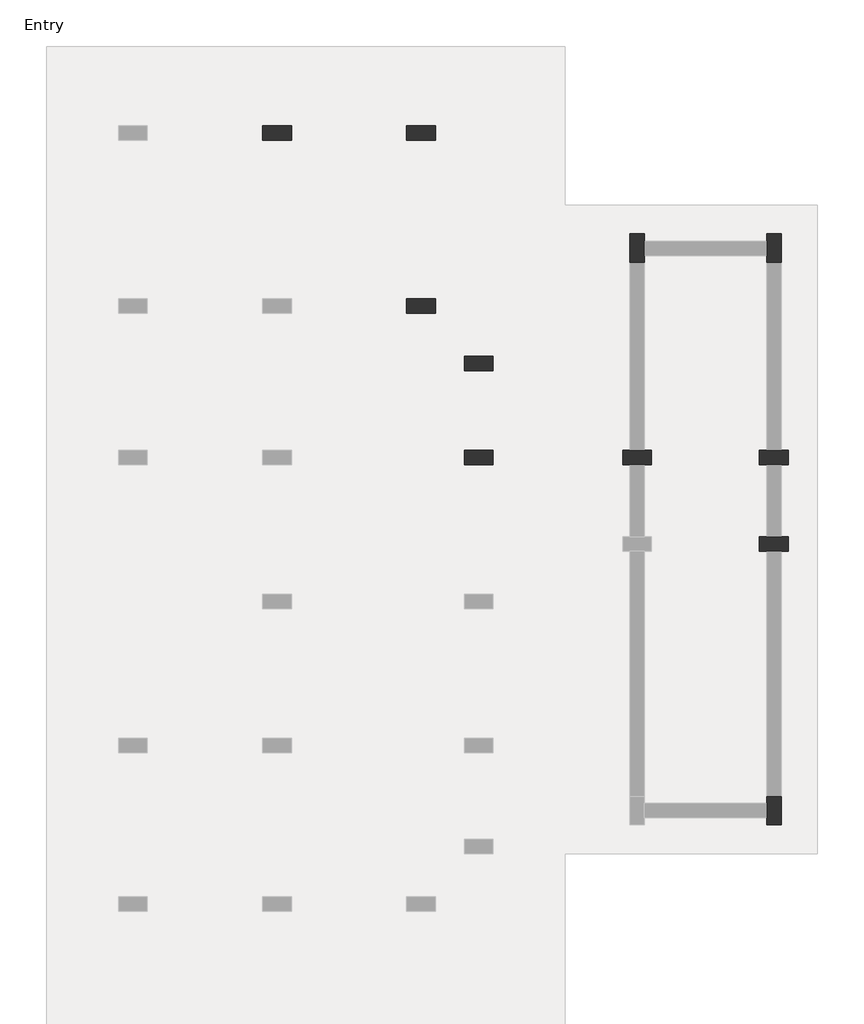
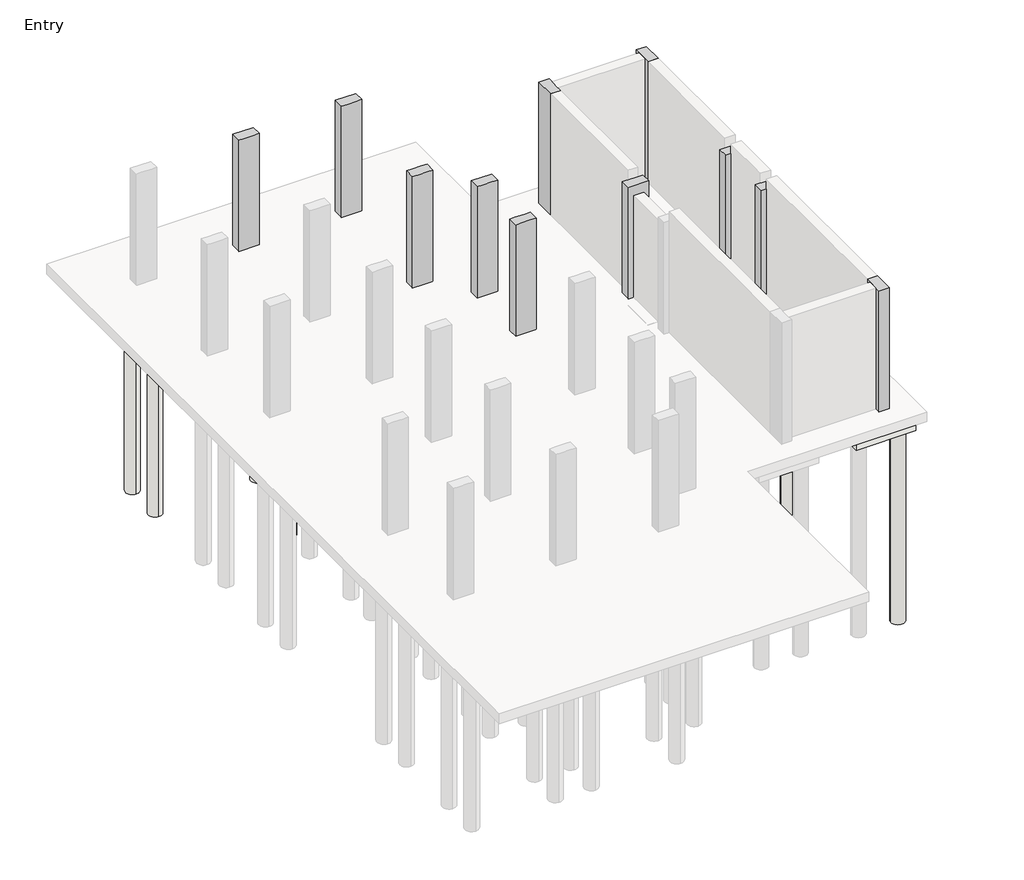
# One storey, part 3 of 3: 35 slabs, 11 columns.
"""IFC4 building model written with IfcOpenShell, lengths in millimetres."""

from ifc_helpers import new_model, si_unit, point, frame, frame_2d, origin, place, context, project, spatial, polyline, circle_curve, trimmed, segment, composite_curve, outline, extrude, faceted_brep, element, save

model = new_model("IFC4")

# Units and contexts
model_context = context("Model", 3, world=origin())
ifc_project = project(units=[si_unit("LENGTHUNIT", "METRE", prefix="MILLI")], contexts=[model_context])

# Site, building, storey
site = spatial("IfcSite", under=ifc_project)
building = spatial("IfcBuilding", under=site)
storey = spatial("IfcBuildingStorey", under=building, Name="Entry", Elevation=0.0)

# Columns
placement = place(None, origin())
element("IfcColumn", 1, ObjectType="Concrete-Rectangular-Column : 12 x 24", at=placement, inside=storey, context=model_context, shape_type="Brep", body=[
    faceted_brep([(-10423.1073204, 23769.0572372, 0.0), (-9813.5073204, 23769.0572372, 0.0), (-9813.5073204, 23464.2572372, 0.0), (-10423.1073204, 23464.2572372, 0.0), (-10423.1073204, 23769.0572372, 3505.2), (-9813.5073204, 23769.0572372, 3505.2), (-9813.5073204, 23769.0572372, 2895.6), (-10423.1073204, 23769.0572372, 2895.6), (-9813.5073204, 23464.2572372, 3505.2), (-9813.5073204, 23464.2572372, 2895.6), (-9965.9073204, 23464.2572372, 3505.2), (-10270.7073204, 23464.2572372, 3505.2), (-10423.1073204, 23464.2572372, 3505.2), (-10423.1073204, 23464.2572372, 2895.6)], [[[0, 1, 2, 3]], [[4, 5, 6, 1, 0, 7]], [[5, 8, 9, 2, 1, 6]], [[8, 10, 11, 12, 13, 3, 2, 9]], [[12, 4, 7, 0, 3, 13]], [[4, 12, 11, 10, 8, 5]]]),
])
element("IfcColumn", 2, ObjectType="Concrete-Rectangular-Column : 12 x 24", at=placement, inside=storey, context=model_context, shape_type="Brep", body=[
    faceted_brep([(-7375.1073204, 23769.0572372, 0.0), (-6765.5073204, 23769.0572372, 0.0), (-6765.5073204, 23464.2572372, 0.0), (-7375.1073204, 23464.2572372, 0.0), (-7375.1073204, 23769.0572372, 3505.2), (-6765.5073204, 23769.0572372, 3505.2), (-7375.1073204, 23769.0572372, 2895.6), (-6765.5073204, 23464.2572372, 3505.2), (-6917.9073204, 23464.2572372, 3505.2), (-7222.7073204, 23464.2572372, 3505.2), (-7375.1073204, 23464.2572372, 3505.2), (-7375.1073204, 23464.2572372, 2895.6)], [[[0, 1, 2, 3]], [[4, 5, 1, 0, 6]], [[5, 7, 2, 1]], [[7, 8, 9, 10, 11, 3, 2]], [[10, 4, 6, 0, 3, 11]], [[4, 10, 9, 8, 7, 5]]]),
])
element("IfcColumn", 3, ObjectType="Concrete-Rectangular-Column : 12 x 24", at=placement, inside=storey, context=model_context, shape_type="Brep", body=[
    faceted_brep([(-7375.1073204, 20111.4572372, 0.0), (-6765.5073204, 20111.4572372, 0.0), (-6765.5073204, 19806.6572372, 0.0), (-7375.1073204, 19806.6572372, 0.0), (-7375.1073204, 20111.4572372, 3505.2), (-7222.7073204, 20111.4572372, 3505.2), (-6917.9073204, 20111.4572372, 3505.2), (-6765.5073204, 20111.4572372, 3505.2), (-7375.1073204, 20111.4572372, 2895.6), (-6765.5073204, 19806.6572372, 3505.2), (-6917.9073204, 19806.6572372, 3505.2), (-7222.7073204, 19806.6572372, 3505.2), (-7375.1073204, 19806.6572372, 3505.2), (-7375.1073204, 19806.6572372, 2895.6)], [[[0, 1, 2, 3]], [[4, 5, 6, 7, 1, 0, 8]], [[7, 9, 2, 1]], [[9, 10, 11, 12, 13, 3, 2]], [[12, 4, 8, 0, 3, 13]], [[4, 12, 11, 10, 9, 7, 6, 5]]]),
])
element("IfcColumn", 4, ObjectType="Concrete-Rectangular-Column : 12 x 24", at=placement, inside=storey, context=model_context, shape_type="Brep", body=[
    faceted_brep([(-6156.6500241, 18892.9999409, 0.0), (-5547.0500241, 18892.9999409, 0.0), (-5547.0500241, 18588.1999409, 0.0), (-6156.6500241, 18588.1999409, 0.0), (-6156.6500241, 18892.9999409, 3505.2), (-5547.0500241, 18892.9999409, 3505.2), (-6156.6500241, 18892.9999409, 2895.6), (-5547.0500241, 18588.1999409, 3505.2), (-5699.4500241, 18588.1999409, 3505.2), (-6004.2500241, 18588.1999409, 3505.2), (-6156.6500241, 18588.1999409, 3505.2), (-6156.6500241, 18588.1999409, 2895.6)], [[[0, 1, 2, 3]], [[4, 5, 1, 0, 6]], [[5, 7, 2, 1]], [[7, 8, 9, 10, 11, 3, 2]], [[10, 4, 6, 0, 3, 11]], [[4, 10, 9, 8, 7, 5]]]),
])
element("IfcColumn", 5, ObjectType="Concrete-Rectangular-Column : 12 x 24", at=placement, inside=storey, context=model_context, shape_type="Brep", body=[
    faceted_brep([(-6156.6500241, 16911.0572372, 0.0), (-5547.0500241, 16911.0572372, 0.0), (-5547.0500241, 16606.2572372, 0.0), (-6156.6500241, 16606.2572372, 0.0), (-6156.6500241, 16911.0572372, 3505.2), (-6004.2500241, 16911.0572372, 3505.2), (-5699.4500241, 16911.0572372, 3505.2), (-5547.0500241, 16911.0572372, 3505.2), (-5547.0500241, 16911.0572372, 2895.6), (-6156.6500241, 16911.0572372, 2895.6), (-5547.0500241, 16606.2572372, 3505.2), (-5547.0500241, 16606.2572372, 2895.6), (-5699.4500241, 16606.2572372, 3505.2), (-6004.2500241, 16606.2572372, 3505.2), (-6156.6500241, 16606.2572372, 3505.2), (-6156.6500241, 16606.2572372, 2895.6)], [[[0, 1, 2, 3]], [[4, 5, 6, 7, 8, 1, 0, 9]], [[7, 10, 11, 2, 1, 8]], [[10, 12, 13, 14, 15, 3, 2, 11]], [[14, 4, 9, 0, 3, 15]], [[4, 14, 13, 12, 10, 7, 6, 5]]]),
])
element("IfcColumn", 6, ObjectType="Concrete-Rectangular-Column : 12 x 24", at=placement, inside=storey, context=model_context, shape_type="Brep", body=[
    faceted_brep([(-2803.8500241, 16911.0572372, 0.0), (-2651.4500241, 16911.0572372, 0.0), (-2346.6500241, 16911.0572372, 0.0), (-2194.2500241, 16911.0572372, 0.0), (-2194.2500241, 16606.2572372, 0.0), (-2346.6500241, 16606.2572372, 0.0), (-2651.4500241, 16606.2572372, 0.0), (-2803.8500241, 16606.2572372, 0.0), (-2803.8500241, 16911.0572372, 3505.2), (-2194.2500241, 16911.0572372, 3505.2), (-2194.2500241, 16606.2572372, 3505.2), (-2803.8500241, 16606.2572372, 3505.2)], [[[0, 1, 2, 3, 4, 5, 6, 7]], [[3, 2, 1, 0, 8, 9]], [[4, 3, 9, 10]], [[7, 6, 5, 4, 10, 11]], [[0, 7, 11, 8]], [[9, 8, 11, 10]]]),
])
element("IfcColumn", 7, ObjectType="Concrete-Rectangular-Column : 12 x 24", at=placement, inside=storey, context=model_context, shape_type="Brep", body=[
    faceted_brep([(89.9860546, 16911.0572372, 0.0), (242.3860546, 16911.0572372, 0.0), (547.1860546, 16911.0572372, 0.0), (699.5860546, 16911.0572372, 0.0), (699.5860546, 16606.2572372, 0.0), (547.1860546, 16606.2572372, 0.0), (242.3860546, 16606.2572372, 0.0), (89.9860546, 16606.2572372, 0.0), (89.9860546, 16911.0572372, 3505.2), (699.5860546, 16911.0572372, 3505.2), (699.5860546, 16606.2572372, 3505.2), (89.9860546, 16606.2572372, 3505.2)], [[[0, 1, 2, 3, 4, 5, 6, 7]], [[3, 2, 1, 0, 8, 9]], [[4, 3, 9, 10]], [[7, 6, 5, 4, 10, 11]], [[0, 7, 11, 8]], [[9, 8, 11, 10]]]),
])
element("IfcColumn", 8, ObjectType="Concrete-Rectangular-Column : 12 x 24", at=placement, inside=storey, context=model_context, shape_type="Brep", body=[
    faceted_brep([(89.9860546, 15082.2572372, 0.0), (242.3860546, 15082.2572372, 0.0), (547.1860546, 15082.2572372, 0.0), (699.5860546, 15082.2572372, 0.0), (699.5860546, 14777.4572372, 0.0), (547.1860546, 14777.4572372, 0.0), (242.3860546, 14777.4572372, 0.0), (89.9860546, 14777.4572372, 0.0), (89.9860546, 15082.2572372, 3505.2), (699.5860546, 15082.2572372, 3505.2), (699.5860546, 14777.4572372, 3505.2), (89.9860546, 14777.4572372, 3505.2)], [[[0, 1, 2, 3, 4, 5, 6, 7]], [[3, 2, 1, 0, 8, 9]], [[4, 3, 9, 10]], [[7, 6, 5, 4, 10, 11]], [[0, 7, 11, 8]], [[9, 8, 11, 10]]]),
])
element("IfcColumn", 9, ObjectType="Concrete-Rectangular-Column : 12 x 24", at=placement, inside=storey, context=model_context, shape_type="Brep", body=[
    faceted_brep([(-2346.6500241, 21483.0572372, 0.0), (-2346.6500241, 21330.6572372, 0.0), (-2346.6500241, 21025.8572372, 0.0), (-2346.6500241, 20873.4572372, 0.0), (-2651.4500241, 20873.4572372, 0.0), (-2651.4500241, 21483.0572372, 0.0), (-2346.6500241, 21483.0572372, 3810.0), (-2346.6500241, 21330.6572372, 3810.0), (-2346.6500241, 21025.8572372, 3810.0), (-2346.6500241, 20873.4572372, 3810.0), (-2651.4500241, 20873.4572372, 3810.0), (-2651.4500241, 21483.0572372, 3810.0)], [[[0, 1, 2, 3, 4, 5]], [[6, 7, 8, 9, 3, 2, 1, 0]], [[9, 10, 4, 3]], [[10, 11, 5, 4]], [[11, 6, 0, 5]], [[6, 11, 10, 9, 8, 7]]]),
])
element("IfcColumn", 10, ObjectType="Concrete-Rectangular-Column : 12 x 24", at=placement, inside=storey, context=model_context, shape_type="Brep", body=[
    faceted_brep([(547.1860546, 21483.0572372, 0.0), (547.1860546, 20873.4572372, 0.0), (242.3860546, 20873.4572372, 0.0), (242.3860546, 21025.8572372, 0.0), (242.3860546, 21330.6572372, 0.0), (242.3860546, 21483.0572372, 0.0), (547.1860546, 21483.0572372, 3810.0), (547.1860546, 20873.4572372, 3810.0), (242.3860546, 20873.4572372, 3810.0), (242.3860546, 21025.8572372, 3810.0), (242.3860546, 21330.6572372, 3810.0), (242.3860546, 21483.0572372, 3810.0)], [[[0, 1, 2, 3, 4, 5]], [[6, 7, 1, 0]], [[7, 8, 2, 1]], [[8, 9, 10, 11, 5, 4, 3, 2]], [[11, 6, 0, 5]], [[6, 11, 10, 9, 8, 7]]]),
])
element("IfcColumn", 11, ObjectType="Concrete-Rectangular-Column : 12 x 24", at=placement, inside=storey, context=model_context, shape_type="Brep", body=[
    faceted_brep([(547.1860546, 9595.8572372, 0.0), (547.1860546, 8986.2572372, 0.0), (242.3860546, 8986.2572372, 0.0), (242.3860546, 9138.6572372, 0.0), (242.3860546, 9443.4572372, 0.0), (242.3860546, 9595.8572372, 0.0), (547.1860546, 9595.8572372, 3810.0), (547.1860546, 8986.2572372, 3810.0), (242.3860546, 8986.2572372, 3810.0), (242.3860546, 9138.6572372, 3810.0), (242.3860546, 9443.4572372, 3810.0), (242.3860546, 9595.8572372, 3810.0)], [[[0, 1, 2, 3, 4, 5]], [[6, 7, 1, 0]], [[7, 8, 2, 1]], [[8, 9, 10, 11, 5, 4, 3, 2]], [[11, 6, 0, 5]], [[6, 11, 10, 9, 8, 7]]]),
])

# Slabs
element("IfcSlab", 12, ObjectType="Pile Cap-2 Pile : 31\"x61\"x35\"", at=placement, inside=storey, context=model_context, shape_type="SweptSolid", body=[
    extrude(outline(polyline([(-7476.7073204, 20848.0572372), (-6663.9073204, 20848.0572372), (-6663.9073204, 19070.0572372), (-7476.7073204, 19070.0572372), (-7476.7073204, 20848.0572372)])), frame((0.0, 0.0, -889.0), z_axis=(0.0, 0.0, 1.0), x_axis=(1.0, 0.0, 0.0)), (0.0, 0.0, 1.0), 584.2),
])
element("IfcSlab", 13, ObjectType="Pile Cap-2 Pile : 31\"x61\"x35\"", at=placement, inside=storey, context=model_context, shape_type="SweptSolid", body=[
    extrude(outline(polyline([(-10524.7073204, 24505.6572372), (-9711.9073204, 24505.6572372), (-9711.9073204, 22727.6572372), (-10524.7073204, 22727.6572372), (-10524.7073204, 24505.6572372)])), frame((0.0, 0.0, -889.0), z_axis=(0.0, 0.0, 1.0), x_axis=(1.0, 0.0, 0.0)), (0.0, 0.0, 1.0), 584.2),
])
element("IfcSlab", 14, ObjectType="Pile Cap-2 Pile : 31\"x61\"x35\"", at=placement, inside=storey, context=model_context, shape_type="SweptSolid", body=[
    extrude(outline(polyline([(-7476.7073204, 24505.6572372), (-6663.9073204, 24505.6572372), (-6663.9073204, 22727.6572372), (-7476.7073204, 22727.6572372), (-7476.7073204, 24505.6572372)])), frame((0.0, 0.0, -889.0), z_axis=(0.0, 0.0, 1.0), x_axis=(1.0, 0.0, 0.0)), (0.0, 0.0, 1.0), 584.2),
])
element("IfcSlab", 15, ObjectType="Pile Cap-2 Pile : 31\"x61\"x35\"", at=placement, inside=storey, context=model_context, shape_type="SweptSolid", body=[
    extrude(outline(polyline([(-6258.2500241, 17647.6572372), (-5445.4500241, 17647.6572372), (-5445.4500241, 15869.6572372), (-6258.2500241, 15869.6572372), (-6258.2500241, 17647.6572372)])), frame((0.0, 0.0, -889.0), z_axis=(0.0, 0.0, 1.0), x_axis=(1.0, 0.0, 0.0)), (0.0, 0.0, 1.0), 584.2),
])
element("IfcSlab", 16, ObjectType="Pile Cap-2 Pile : 31\"x61\"x35\"", at=placement, inside=storey, context=model_context, shape_type="SweptSolid", body=[
    extrude(outline(polyline([(-1610.0500241, 21584.6572372), (-1610.0500241, 20771.8572372), (-3388.0500241, 20771.8572372), (-3388.0500241, 21584.6572372), (-1610.0500241, 21584.6572372)])), frame((0.0, 0.0, -889.0), z_axis=(0.0, 0.0, 1.0), x_axis=(1.0, 0.0, 0.0)), (0.0, 0.0, 1.0), 584.2),
])
element("IfcSlab", 17, ObjectType="Pile Cap-2 Pile : 31\"x61\"x35\"", at=placement, inside=storey, context=model_context, shape_type="SweptSolid", body=[
    extrude(outline(polyline([(1283.7860546, 21584.6572372), (1283.7860546, 20771.8572372), (-494.2139454, 20771.8572372), (-494.2139454, 21584.6572372), (1283.7860546, 21584.6572372)])), frame((0.0, 0.0, -889.0), z_axis=(0.0, 0.0, 1.0), x_axis=(1.0, 0.0, 0.0)), (0.0, 0.0, 1.0), 584.2),
])
element("IfcSlab", 18, ObjectType="Pile Cap-2 Pile : 31\"x61\"x35\"", at=placement, inside=storey, context=model_context, shape_type="SweptSolid", body=[
    extrude(outline(polyline([(-494.2139454, 16352.2572372), (-494.2139454, 17165.0572372), (1283.7860546, 17165.0572372), (1283.7860546, 16352.2572372), (-494.2139454, 16352.2572372)])), frame((0.0, 0.0, -889.0), z_axis=(0.0, 0.0, 1.0), x_axis=(1.0, 0.0, 0.0)), (0.0, 0.0, 1.0), 584.2),
])
element("IfcSlab", 19, ObjectType="Pile Cap-2 Pile : 31\"x61\"x35\"", at=placement, inside=storey, context=model_context, shape_type="SweptSolid", body=[
    extrude(outline(polyline([(-494.2139454, 14523.4572372), (-494.2139454, 15336.2572372), (1283.7860546, 15336.2572372), (1283.7860546, 14523.4572372), (-494.2139454, 14523.4572372)])), frame((0.0, 0.0, -889.0), z_axis=(0.0, 0.0, 1.0), x_axis=(1.0, 0.0, 0.0)), (0.0, 0.0, 1.0), 584.2),
])
element("IfcSlab", 20, ObjectType="Pile Cap-2 Pile : 31\"x61\"x35\"", at=placement, inside=storey, context=model_context, shape_type="SweptSolid", body=[
    extrude(outline(polyline([(-3388.0500241, 16352.2572372), (-3388.0500241, 17165.0572372), (-1610.0500241, 17165.0572372), (-1610.0500241, 16352.2572372), (-3388.0500241, 16352.2572372)])), frame((0.0, 0.0, -889.0), z_axis=(0.0, 0.0, 1.0), x_axis=(1.0, 0.0, 0.0)), (0.0, 0.0, 1.0), 584.2),
])
element("IfcSlab", 21, ObjectType="Pile Cap-2 Pile : 31\"x61\"x35\"", at=placement, inside=storey, context=model_context, shape_type="SweptSolid", body=[
    extrude(outline(polyline([(1283.7860546, 9697.4572372), (1283.7860546, 8884.6572372), (-494.2139454, 8884.6572372), (-494.2139454, 9697.4572372), (1283.7860546, 9697.4572372)])), frame((0.0, 0.0, -889.0), z_axis=(0.0, 0.0, 1.0), x_axis=(1.0, 0.0, 0.0)), (0.0, 0.0, 1.0), 584.2),
])
element("IfcSlab", 22, ObjectType="Pile Cap-2 Pile : 31\"x61\"x35\"", at=placement, inside=storey, context=model_context, shape_type="SweptSolid", body=[
    extrude(outline(polyline([(-5445.4500241, 17850.8572372), (-6258.2500241, 17850.8572372), (-6258.2500241, 19628.8572372), (-5445.4500241, 19628.8572372), (-5445.4500241, 17850.8572372)])), frame((0.0, 0.0, -889.0), z_axis=(0.0, 0.0, 1.0), x_axis=(1.0, 0.0, 0.0)), (0.0, 0.0, 1.0), 584.2),
])
element("IfcSlab", 23, ObjectType="Pile-Steel Pipe : 16\" Diameter", at=placement, inside=storey, context=model_context, shape_type="SweptSolid", body=[
    extrude(outline(composite_curve([segment(trimmed(circle_curve(frame_2d((-9584.9073204, 20492.4572372)), 203.2), [point((-9584.9073204, 20289.2572372))], [point((-9584.9073204, 20695.6572372))], False, "CARTESIAN"), True, "CONTINUOUS"), segment(trimmed(circle_curve(frame_2d((-9584.9073204, 20492.4572372)), 203.2), [point((-9584.9073204, 20695.6572372))], [point((-9584.9073204, 20289.2572372))], False, "CARTESIAN"), True, "CONTINUOUS")], self_intersect=False)), frame((0.0, 0.0, -6985.0), z_axis=(0.0, 0.0, 1.0), x_axis=(1.0, 0.0, 0.0)), (0.0, 0.0, 1.0), 6096.0),
])
element("IfcSlab", 24, ObjectType="Pile-Steel Pipe : 16\" Diameter", at=placement, inside=storey, context=model_context, shape_type="SweptSolid", body=[
    extrude(outline(composite_curve([segment(trimmed(circle_curve(frame_2d((-10651.7073204, 20492.4572372)), 203.2), [point((-10651.7073204, 20289.2572372))], [point((-10651.7073204, 20695.6572372))], False, "CARTESIAN"), True, "CONTINUOUS"), segment(trimmed(circle_curve(frame_2d((-10651.7073204, 20492.4572372)), 203.2), [point((-10651.7073204, 20695.6572372))], [point((-10651.7073204, 20289.2572372))], False, "CARTESIAN"), True, "CONTINUOUS")], self_intersect=False)), frame((0.0, 0.0, -6985.0), z_axis=(0.0, 0.0, 1.0), x_axis=(1.0, 0.0, 0.0)), (0.0, 0.0, 1.0), 6096.0),
])
element("IfcSlab", 25, ObjectType="Pile-Steel Pipe : 16\" Diameter", at=placement, inside=storey, context=model_context, shape_type="SweptSolid", body=[
    extrude(outline(composite_curve([segment(trimmed(circle_curve(frame_2d((-13166.3073204, 23032.4572372)), 203.2), [point((-13166.3073204, 22829.2572372))], [point((-13166.3073204, 23235.6572372))], False, "CARTESIAN"), True, "CONTINUOUS"), segment(trimmed(circle_curve(frame_2d((-13166.3073204, 23032.4572372)), 203.2), [point((-13166.3073204, 23235.6572372))], [point((-13166.3073204, 22829.2572372))], False, "CARTESIAN"), True, "CONTINUOUS")], self_intersect=False)), frame((0.0, 0.0, -6985.0), z_axis=(0.0, 0.0, 1.0), x_axis=(1.0, 0.0, 0.0)), (0.0, 0.0, 1.0), 6096.0),
])
element("IfcSlab", 26, ObjectType="Pile-Steel Pipe : 16\" Diameter", at=placement, inside=storey, context=model_context, shape_type="SweptSolid", body=[
    extrude(outline(composite_curve([segment(trimmed(circle_curve(frame_2d((-13166.3073204, 24200.8572372)), 203.2), [point((-13166.3073204, 23997.6572372))], [point((-13166.3073204, 24404.0572372))], False, "CARTESIAN"), True, "CONTINUOUS"), segment(trimmed(circle_curve(frame_2d((-13166.3073204, 24200.8572372)), 203.2), [point((-13166.3073204, 24404.0572372))], [point((-13166.3073204, 23997.6572372))], False, "CARTESIAN"), True, "CONTINUOUS")], self_intersect=False)), frame((0.0, 0.0, -6985.0), z_axis=(0.0, 0.0, 1.0), x_axis=(1.0, 0.0, 0.0)), (0.0, 0.0, 1.0), 6096.0),
])
element("IfcSlab", 27, ObjectType="Pile-Steel Pipe : 16\" Diameter", at=placement, inside=storey, context=model_context, shape_type="SweptSolid", body=[
    extrude(outline(composite_curve([segment(trimmed(circle_curve(frame_2d((-7070.3073204, 19374.8572372)), 203.2), [point((-7070.3073204, 19171.6572372))], [point((-7070.3073204, 19578.0572372))], False, "CARTESIAN"), True, "CONTINUOUS"), segment(trimmed(circle_curve(frame_2d((-7070.3073204, 19374.8572372)), 203.2), [point((-7070.3073204, 19578.0572372))], [point((-7070.3073204, 19171.6572372))], False, "CARTESIAN"), True, "CONTINUOUS")], self_intersect=False)), frame((0.0, 0.0, -6985.0), z_axis=(0.0, 0.0, 1.0), x_axis=(1.0, 0.0, 0.0)), (0.0, 0.0, 1.0), 6096.0),
])
element("IfcSlab", 28, ObjectType="Pile-Steel Pipe : 16\" Diameter", at=placement, inside=storey, context=model_context, shape_type="SweptSolid", body=[
    extrude(outline(composite_curve([segment(trimmed(circle_curve(frame_2d((-7070.3073204, 20543.2572372)), 203.2), [point((-7070.3073204, 20340.0572372))], [point((-7070.3073204, 20746.4572372))], False, "CARTESIAN"), True, "CONTINUOUS"), segment(trimmed(circle_curve(frame_2d((-7070.3073204, 20543.2572372)), 203.2), [point((-7070.3073204, 20746.4572372))], [point((-7070.3073204, 20340.0572372))], False, "CARTESIAN"), True, "CONTINUOUS")], self_intersect=False)), frame((0.0, 0.0, -6985.0), z_axis=(0.0, 0.0, 1.0), x_axis=(1.0, 0.0, 0.0)), (0.0, 0.0, 1.0), 6096.0),
])
element("IfcSlab", 29, ObjectType="Pile-Steel Pipe : 16\" Diameter", at=placement, inside=storey, context=model_context, shape_type="SweptSolid", body=[
    extrude(outline(composite_curve([segment(trimmed(circle_curve(frame_2d((-10118.3073204, 23032.4572372)), 203.2), [point((-10118.3073204, 22829.2572372))], [point((-10118.3073204, 23235.6572372))], False, "CARTESIAN"), True, "CONTINUOUS"), segment(trimmed(circle_curve(frame_2d((-10118.3073204, 23032.4572372)), 203.2), [point((-10118.3073204, 23235.6572372))], [point((-10118.3073204, 22829.2572372))], False, "CARTESIAN"), True, "CONTINUOUS")], self_intersect=False)), frame((0.0, 0.0, -6985.0), z_axis=(0.0, 0.0, 1.0), x_axis=(1.0, 0.0, 0.0)), (0.0, 0.0, 1.0), 6096.0),
])
element("IfcSlab", 30, ObjectType="Pile-Steel Pipe : 16\" Diameter", at=placement, inside=storey, context=model_context, shape_type="SweptSolid", body=[
    extrude(outline(composite_curve([segment(trimmed(circle_curve(frame_2d((-10118.3073204, 24200.8572372)), 203.2), [point((-10118.3073204, 23997.6572372))], [point((-10118.3073204, 24404.0572372))], False, "CARTESIAN"), True, "CONTINUOUS"), segment(trimmed(circle_curve(frame_2d((-10118.3073204, 24200.8572372)), 203.2), [point((-10118.3073204, 24404.0572372))], [point((-10118.3073204, 23997.6572372))], False, "CARTESIAN"), True, "CONTINUOUS")], self_intersect=False)), frame((0.0, 0.0, -6985.0), z_axis=(0.0, 0.0, 1.0), x_axis=(1.0, 0.0, 0.0)), (0.0, 0.0, 1.0), 6096.0),
])
element("IfcSlab", 31, ObjectType="Pile-Steel Pipe : 16\" Diameter", at=placement, inside=storey, context=model_context, shape_type="SweptSolid", body=[
    extrude(outline(composite_curve([segment(trimmed(circle_curve(frame_2d((-7070.3073204, 23032.4572372)), 203.2), [point((-7070.3073204, 22829.2572372))], [point((-7070.3073204, 23235.6572372))], False, "CARTESIAN"), True, "CONTINUOUS"), segment(trimmed(circle_curve(frame_2d((-7070.3073204, 23032.4572372)), 203.2), [point((-7070.3073204, 23235.6572372))], [point((-7070.3073204, 22829.2572372))], False, "CARTESIAN"), True, "CONTINUOUS")], self_intersect=False)), frame((0.0, 0.0, -6985.0), z_axis=(0.0, 0.0, 1.0), x_axis=(1.0, 0.0, 0.0)), (0.0, 0.0, 1.0), 6096.0),
])
element("IfcSlab", 32, ObjectType="Pile-Steel Pipe : 16\" Diameter", at=placement, inside=storey, context=model_context, shape_type="SweptSolid", body=[
    extrude(outline(composite_curve([segment(trimmed(circle_curve(frame_2d((-7070.3073204, 24200.8572372)), 203.2), [point((-7070.3073204, 23997.6572372))], [point((-7070.3073204, 24404.0572372))], False, "CARTESIAN"), True, "CONTINUOUS"), segment(trimmed(circle_curve(frame_2d((-7070.3073204, 24200.8572372)), 203.2), [point((-7070.3073204, 24404.0572372))], [point((-7070.3073204, 23997.6572372))], False, "CARTESIAN"), True, "CONTINUOUS")], self_intersect=False)), frame((0.0, 0.0, -6985.0), z_axis=(0.0, 0.0, 1.0), x_axis=(1.0, 0.0, 0.0)), (0.0, 0.0, 1.0), 6096.0),
])
element("IfcSlab", 33, ObjectType="Pile-Steel Pipe : 16\" Diameter", at=placement, inside=storey, context=model_context, shape_type="SweptSolid", body=[
    extrude(outline(composite_curve([segment(trimmed(circle_curve(frame_2d((-5851.8500241, 16174.4572372)), 203.2), [point((-5851.8500241, 15971.2572372))], [point((-5851.8500241, 16377.6572372))], False, "CARTESIAN"), True, "CONTINUOUS"), segment(trimmed(circle_curve(frame_2d((-5851.8500241, 16174.4572372)), 203.2), [point((-5851.8500241, 16377.6572372))], [point((-5851.8500241, 15971.2572372))], False, "CARTESIAN"), True, "CONTINUOUS")], self_intersect=False)), frame((0.0, 0.0, -6985.0), z_axis=(0.0, 0.0, 1.0), x_axis=(1.0, 0.0, 0.0)), (0.0, 0.0, 1.0), 6096.0),
])
element("IfcSlab", 34, ObjectType="Pile-Steel Pipe : 16\" Diameter", at=placement, inside=storey, context=model_context, shape_type="SweptSolid", body=[
    extrude(outline(composite_curve([segment(trimmed(circle_curve(frame_2d((-5851.8500241, 17342.8572372)), 203.2), [point((-5851.8500241, 17139.6572372))], [point((-5851.8500241, 17546.0572372))], False, "CARTESIAN"), True, "CONTINUOUS"), segment(trimmed(circle_curve(frame_2d((-5851.8500241, 17342.8572372)), 203.2), [point((-5851.8500241, 17546.0572372))], [point((-5851.8500241, 17139.6572372))], False, "CARTESIAN"), True, "CONTINUOUS")], self_intersect=False)), frame((0.0, 0.0, -6985.0), z_axis=(0.0, 0.0, 1.0), x_axis=(1.0, 0.0, 0.0)), (0.0, 0.0, 1.0), 6096.0),
])
element("IfcSlab", 35, ObjectType="Pile-Steel Pipe : 16\" Diameter", at=placement, inside=storey, context=model_context, shape_type="SweptSolid", body=[
    extrude(outline(composite_curve([segment(trimmed(circle_curve(frame_2d((-3083.2500241, 21178.2572372)), 203.2), [point((-3286.4500241, 21178.2572372))], [point((-2880.0500241, 21178.2572372))], False, "CARTESIAN"), True, "CONTINUOUS"), segment(trimmed(circle_curve(frame_2d((-3083.2500241, 21178.2572372)), 203.2), [point((-2880.0500241, 21178.2572372))], [point((-3286.4500241, 21178.2572372))], False, "CARTESIAN"), True, "CONTINUOUS")], self_intersect=False)), frame((0.0, 0.0, -6985.0), z_axis=(0.0, 0.0, 1.0), x_axis=(1.0, 0.0, 0.0)), (0.0, 0.0, 1.0), 6096.0),
])
element("IfcSlab", 36, ObjectType="Pile-Steel Pipe : 16\" Diameter", at=placement, inside=storey, context=model_context, shape_type="SweptSolid", body=[
    extrude(outline(composite_curve([segment(trimmed(circle_curve(frame_2d((-1914.8500241, 21178.2572372)), 203.2), [point((-2118.0500241, 21178.2572372))], [point((-1711.6500241, 21178.2572372))], False, "CARTESIAN"), True, "CONTINUOUS"), segment(trimmed(circle_curve(frame_2d((-1914.8500241, 21178.2572372)), 203.2), [point((-1711.6500241, 21178.2572372))], [point((-2118.0500241, 21178.2572372))], False, "CARTESIAN"), True, "CONTINUOUS")], self_intersect=False)), frame((0.0, 0.0, -6985.0), z_axis=(0.0, 0.0, 1.0), x_axis=(1.0, 0.0, 0.0)), (0.0, 0.0, 1.0), 6096.0),
])
element("IfcSlab", 37, ObjectType="Pile-Steel Pipe : 16\" Diameter", at=placement, inside=storey, context=model_context, shape_type="SweptSolid", body=[
    extrude(outline(composite_curve([segment(trimmed(circle_curve(frame_2d((-189.4139454, 21178.2572372)), 203.2), [point((-392.6139454, 21178.2572372))], [point((13.7860546, 21178.2572372))], False, "CARTESIAN"), True, "CONTINUOUS"), segment(trimmed(circle_curve(frame_2d((-189.4139454, 21178.2572372)), 203.2), [point((13.7860546, 21178.2572372))], [point((-392.6139454, 21178.2572372))], False, "CARTESIAN"), True, "CONTINUOUS")], self_intersect=False)), frame((0.0, 0.0, -6985.0), z_axis=(0.0, 0.0, 1.0), x_axis=(1.0, 0.0, 0.0)), (0.0, 0.0, 1.0), 6096.0),
])
element("IfcSlab", 38, ObjectType="Pile-Steel Pipe : 16\" Diameter", at=placement, inside=storey, context=model_context, shape_type="SweptSolid", body=[
    extrude(outline(composite_curve([segment(trimmed(circle_curve(frame_2d((978.9860546, 21178.2572372)), 203.2), [point((775.7860546, 21178.2572372))], [point((1182.1860546, 21178.2572372))], False, "CARTESIAN"), True, "CONTINUOUS"), segment(trimmed(circle_curve(frame_2d((978.9860546, 21178.2572372)), 203.2), [point((1182.1860546, 21178.2572372))], [point((775.7860546, 21178.2572372))], False, "CARTESIAN"), True, "CONTINUOUS")], self_intersect=False)), frame((0.0, 0.0, -6985.0), z_axis=(0.0, 0.0, 1.0), x_axis=(1.0, 0.0, 0.0)), (0.0, 0.0, 1.0), 6096.0),
])
element("IfcSlab", 39, ObjectType="Pile-Steel Pipe : 16\" Diameter", at=placement, inside=storey, context=model_context, shape_type="SweptSolid", body=[
    extrude(outline(composite_curve([segment(trimmed(circle_curve(frame_2d((978.9860546, 16758.6572372)), 203.2), [point((1182.1860546, 16758.6572372))], [point((775.7860546, 16758.6572372))], False, "CARTESIAN"), True, "CONTINUOUS"), segment(trimmed(circle_curve(frame_2d((978.9860546, 16758.6572372)), 203.2), [point((775.7860546, 16758.6572372))], [point((1182.1860546, 16758.6572372))], False, "CARTESIAN"), True, "CONTINUOUS")], self_intersect=False)), frame((0.0, 0.0, -6985.0), z_axis=(0.0, 0.0, 1.0), x_axis=(1.0, 0.0, 0.0)), (0.0, 0.0, 1.0), 6096.0),
])
element("IfcSlab", 40, ObjectType="Pile-Steel Pipe : 16\" Diameter", at=placement, inside=storey, context=model_context, shape_type="SweptSolid", body=[
    extrude(outline(composite_curve([segment(trimmed(circle_curve(frame_2d((-189.4139454, 16758.6572372)), 203.2), [point((13.7860546, 16758.6572372))], [point((-392.6139454, 16758.6572372))], False, "CARTESIAN"), True, "CONTINUOUS"), segment(trimmed(circle_curve(frame_2d((-189.4139454, 16758.6572372)), 203.2), [point((-392.6139454, 16758.6572372))], [point((13.7860546, 16758.6572372))], False, "CARTESIAN"), True, "CONTINUOUS")], self_intersect=False)), frame((0.0, 0.0, -6985.0), z_axis=(0.0, 0.0, 1.0), x_axis=(1.0, 0.0, 0.0)), (0.0, 0.0, 1.0), 6096.0),
])
element("IfcSlab", 41, ObjectType="Pile-Steel Pipe : 16\" Diameter", at=placement, inside=storey, context=model_context, shape_type="SweptSolid", body=[
    extrude(outline(composite_curve([segment(trimmed(circle_curve(frame_2d((978.9860546, 14929.8572372)), 203.2), [point((1182.1860546, 14929.8572372))], [point((775.7860546, 14929.8572372))], False, "CARTESIAN"), True, "CONTINUOUS"), segment(trimmed(circle_curve(frame_2d((978.9860546, 14929.8572372)), 203.2), [point((775.7860546, 14929.8572372))], [point((1182.1860546, 14929.8572372))], False, "CARTESIAN"), True, "CONTINUOUS")], self_intersect=False)), frame((0.0, 0.0, -6985.0), z_axis=(0.0, 0.0, 1.0), x_axis=(1.0, 0.0, 0.0)), (0.0, 0.0, 1.0), 6096.0),
])
element("IfcSlab", 42, ObjectType="Pile-Steel Pipe : 16\" Diameter", at=placement, inside=storey, context=model_context, shape_type="SweptSolid", body=[
    extrude(outline(composite_curve([segment(trimmed(circle_curve(frame_2d((-1914.8500241, 16758.6572372)), 203.2), [point((-1711.6500241, 16758.6572372))], [point((-2118.0500241, 16758.6572372))], False, "CARTESIAN"), True, "CONTINUOUS"), segment(trimmed(circle_curve(frame_2d((-1914.8500241, 16758.6572372)), 203.2), [point((-2118.0500241, 16758.6572372))], [point((-1711.6500241, 16758.6572372))], False, "CARTESIAN"), True, "CONTINUOUS")], self_intersect=False)), frame((0.0, 0.0, -6985.0), z_axis=(0.0, 0.0, 1.0), x_axis=(1.0, 0.0, 0.0)), (0.0, 0.0, 1.0), 6096.0),
])
element("IfcSlab", 43, ObjectType="Pile-Steel Pipe : 16\" Diameter", at=placement, inside=storey, context=model_context, shape_type="SweptSolid", body=[
    extrude(outline(composite_curve([segment(trimmed(circle_curve(frame_2d((-3083.2500241, 16758.6572372)), 203.2), [point((-2880.0500241, 16758.6572372))], [point((-3286.4500241, 16758.6572372))], False, "CARTESIAN"), True, "CONTINUOUS"), segment(trimmed(circle_curve(frame_2d((-3083.2500241, 16758.6572372)), 203.2), [point((-3286.4500241, 16758.6572372))], [point((-2880.0500241, 16758.6572372))], False, "CARTESIAN"), True, "CONTINUOUS")], self_intersect=False)), frame((0.0, 0.0, -6985.0), z_axis=(0.0, 0.0, 1.0), x_axis=(1.0, 0.0, 0.0)), (0.0, 0.0, 1.0), 6096.0),
])
element("IfcSlab", 44, ObjectType="Pile-Steel Pipe : 16\" Diameter", at=placement, inside=storey, context=model_context, shape_type="SweptSolid", body=[
    extrude(outline(composite_curve([segment(trimmed(circle_curve(frame_2d((978.9860546, 9291.0572372)), 203.2), [point((775.7860546, 9291.0572372))], [point((1182.1860546, 9291.0572372))], False, "CARTESIAN"), True, "CONTINUOUS"), segment(trimmed(circle_curve(frame_2d((978.9860546, 9291.0572372)), 203.2), [point((1182.1860546, 9291.0572372))], [point((775.7860546, 9291.0572372))], False, "CARTESIAN"), True, "CONTINUOUS")], self_intersect=False)), frame((0.0, 0.0, -6985.0), z_axis=(0.0, 0.0, 1.0), x_axis=(1.0, 0.0, 0.0)), (0.0, 0.0, 1.0), 6096.0),
])
element("IfcSlab", 45, ObjectType="Pile-Steel Pipe : 16\" Diameter", at=placement, inside=storey, context=model_context, shape_type="SweptSolid", body=[
    extrude(outline(composite_curve([segment(trimmed(circle_curve(frame_2d((-5851.8500241, 19324.0572372)), 203.2), [point((-5851.8500241, 19527.2572372))], [point((-5851.8500241, 19120.8572372))], False, "CARTESIAN"), True, "CONTINUOUS"), segment(trimmed(circle_curve(frame_2d((-5851.8500241, 19324.0572372)), 203.2), [point((-5851.8500241, 19120.8572372))], [point((-5851.8500241, 19527.2572372))], False, "CARTESIAN"), True, "CONTINUOUS")], self_intersect=False)), frame((0.0, 0.0, -6985.0), z_axis=(0.0, 0.0, 1.0), x_axis=(1.0, 0.0, 0.0)), (0.0, 0.0, 1.0), 6096.0),
])
element("IfcSlab", 46, ObjectType="Pile-Steel Pipe : 16\" Diameter", at=placement, inside=storey, context=model_context, shape_type="SweptSolid", body=[
    extrude(outline(composite_curve([segment(trimmed(circle_curve(frame_2d((-5851.8500241, 18155.6572372)), 203.2), [point((-5851.8500241, 18358.8572372))], [point((-5851.8500241, 17952.4572372))], False, "CARTESIAN"), True, "CONTINUOUS"), segment(trimmed(circle_curve(frame_2d((-5851.8500241, 18155.6572372)), 203.2), [point((-5851.8500241, 17952.4572372))], [point((-5851.8500241, 18358.8572372))], False, "CARTESIAN"), True, "CONTINUOUS")], self_intersect=False)), frame((0.0, 0.0, -6985.0), z_axis=(0.0, 0.0, 1.0), x_axis=(1.0, 0.0, 0.0)), (0.0, 0.0, 1.0), 6096.0),
])

save(model, "model.ifc")
